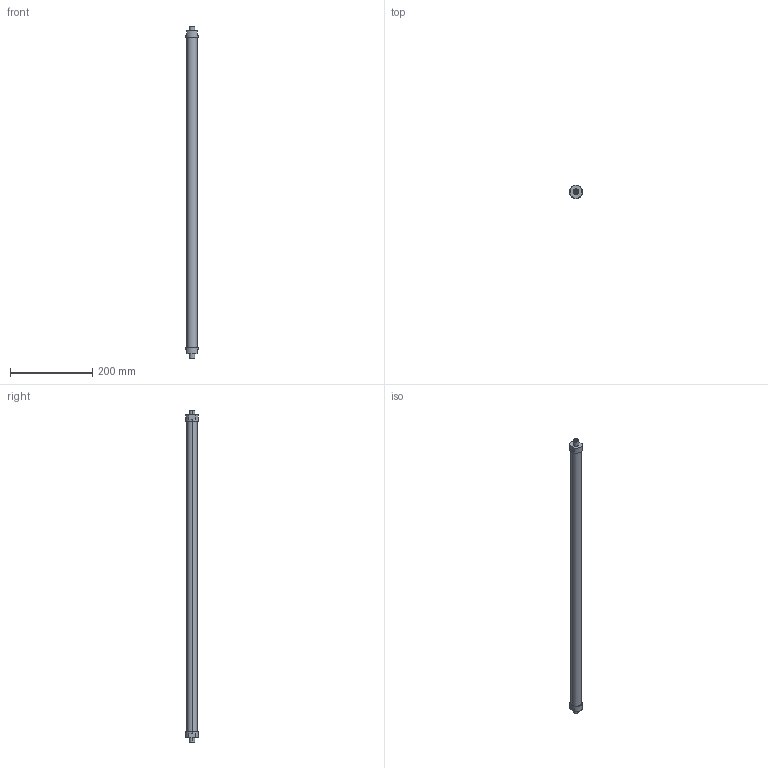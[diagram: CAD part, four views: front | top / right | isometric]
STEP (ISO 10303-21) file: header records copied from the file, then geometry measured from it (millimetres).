
FILE_DESCRIPTION(('STEP AP214'),'1');
FILE_NAME('ETT-R050G794.stp','2015-02-02T13:06:28',(' '),(' '),'Spatial InterOp 3D',' ',' ');
FILE_SCHEMA(('automotive_design'));
Length unit declared in the file: metre
Products named in the file (3): 1; 2; 3
Bounding box: 31 x 31 x 806 mm (x, y, z)
Volume: 372214.5 mm3; surface area: 80755.9 mm2
Topology: 1 solids, 7 shells, 32 faces, 86 edges, 66 vertices
Faces by surface type: cylinder 16, plane 16
Entity records: 1375 total; most frequent: DIRECTION 206, CARTESIAN_POINT 187, ORIENTED_EDGE 148, EDGE_CURVE 86, AXIS2_PLACEMENT_3D 85, VERTEX_POINT 66, CIRCLE 50, EDGE_LOOP 40
